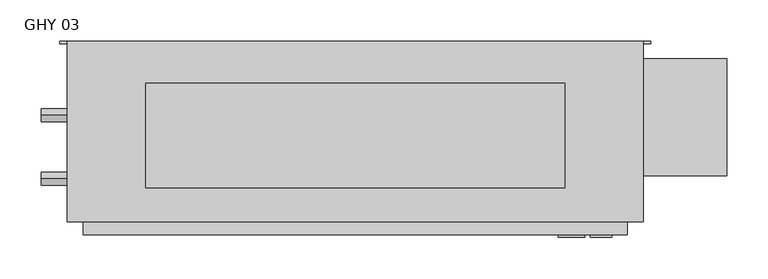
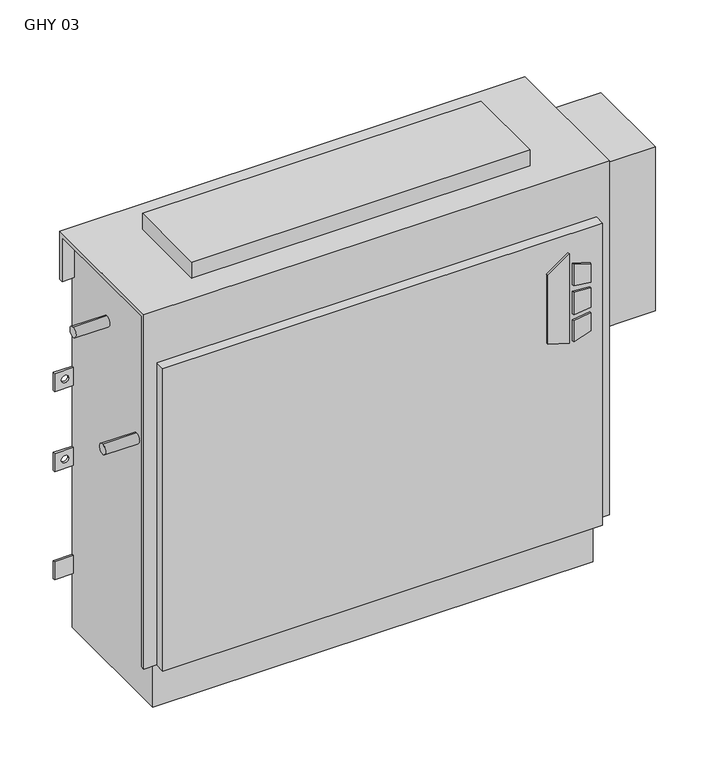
"""IFC4 building model written with IfcOpenShell, lengths in millimetres: proxy geometry, Vertical_Fan_Coil_Unit_-_GHY_-_IEC_-_2-Pipe_TS-FR_LH_2022 : GHY 03."""

import ifcopenshell
import ifcopenshell.guid

model = None  # the IFC model being written
_history = None  # IfcOwnerHistory: only IFC2X3 demands one
_inside = {}  # id of a spatial element -> (the spatial element, [elements in it])
_under = {}  # id of a project, library or spatial element -> (it, [spatial elements below it])
_declared = {}  # id of a project -> (the project, [libraries it declares])
_typed = {}  # id of a type object -> (the type object, [elements of that type])
_made_of = {}  # id of a material, layer set ... -> (it, [elements and type objects made of it])


def new_model(schema):
    """Start an empty IFC model of exactly this schema.

    Asked for "IFC4X3", IfcOpenShell would pick the latest addendum, in which some entities
    have other attributes; the version numbers below select the first issue.
    IFC2X3 requires an IfcOwnerHistory on every rooted entity: one is made here for all.
    """
    global model, _history
    if schema == "IFC4X3":
        model = ifcopenshell.file(schema_version=(4, 3, 0, 0))
    else:
        model = ifcopenshell.file(schema=schema)
    _inside.clear()
    _under.clear()
    _declared.clear()
    _typed.clear()
    _made_of.clear()
    _history = None
    if model.schema == "IFC2X3":
        org = make("IfcOrganization", Name="unknown")
        user = make(
            "IfcPersonAndOrganization",
            ThePerson=make("IfcPerson", FamilyName="unknown"),
            TheOrganization=org,
        )
        app = make(
            "IfcApplication",
            ApplicationDeveloper=org,
            Version="unknown",
            ApplicationFullName="unknown",
            ApplicationIdentifier="unknown",
        )
        _history = make(
            "IfcOwnerHistory",
            OwningUser=user,
            OwningApplication=app,
            ChangeAction="ADDED",
            CreationDate=0,
        )
    return model


def make(cls, **values):
    """One entity of the class cls with the attributes given. An attribute that is None is left unset."""
    return model.create_entity(
        cls, **{name: value for name, value in values.items() if value is not None}
    )


def rooted(cls, **values):
    """An entity with a GlobalId (a new one), such as an element, a storey or a relation."""
    return make(cls, GlobalId=ifcopenshell.guid.new(), OwnerHistory=_history, **values)


def si_unit(unit_type, name, prefix=None):
    """IfcSIUnit, for example si_unit("LENGTHUNIT", "METRE", prefix="MILLI")."""
    return make("IfcSIUnit", UnitType=unit_type, Prefix=prefix, Name=name)


def assignment(units):
    """IfcUnitAssignment: the units of a project."""
    return None if units is None else make("IfcUnitAssignment", Units=units)


def point(xyz):
    """IfcCartesianPoint."""
    return None if xyz is None else make("IfcCartesianPoint", Coordinates=xyz)


def direction(xyz):
    """IfcDirection."""
    return None if xyz is None else make("IfcDirection", DirectionRatios=xyz)


def frame(location, z_axis=None, x_axis=None):
    """IfcAxis2Placement3D, a coordinate frame: its origin and axes. An axis left out is left unset."""
    return make(
        "IfcAxis2Placement3D",
        Location=point(location),
        Axis=direction(z_axis),
        RefDirection=direction(x_axis),
    )


def frame_2d(location, x_axis=None):
    """IfcAxis2Placement2D, a coordinate frame in the plane: its origin and x axis."""
    return make(
        "IfcAxis2Placement2D", Location=point(location), RefDirection=direction(x_axis)
    )


def origin():
    """The frame at (0, 0, 0) with its axes left unset."""
    return frame((0.0, 0.0, 0.0))


def place(relative_to, where):
    """IfcLocalPlacement: puts the frame where relative to a parent placement (None: the world)."""
    return make(
        "IfcLocalPlacement", PlacementRelTo=relative_to, RelativePlacement=where
    )


def context(
    kind, dimensions, precision=None, world=None, true_north=None, identifier=None
):
    """IfcGeometricRepresentationContext, for example the 3D "Model" context."""
    return make(
        "IfcGeometricRepresentationContext",
        ContextIdentifier=identifier,
        ContextType=kind,
        CoordinateSpaceDimension=dimensions,
        Precision=precision,
        WorldCoordinateSystem=world,
        TrueNorth=true_north,
    )


def project(units=None, contexts=None):
    """IfcProject with its units and contexts."""
    return rooted(
        "IfcProject",
        Name="project",
        RepresentationContexts=contexts,
        UnitsInContext=assignment(units),
    )


def spatial(cls, under=None, at=None, **own):
    """A site, building, storey or space (cls), placed at a placement, below another one or the project."""
    s = rooted(cls, ObjectPlacement=at, **own)
    if under is not None:
        _under.setdefault(under.id(), (under, []))[1].append(s)
    return s


def polyline(points):
    """IfcPolyline through the points."""
    return make("IfcPolyline", Points=[point(p) for p in points])


def circle_curve(where, radius):
    """IfcCircle in the frame where."""
    return make("IfcCircle", Position=where, Radius=radius)


def trimmed(basis, trim1, trim2, sense, master):
    """IfcTrimmedCurve: the piece of a basis curve between two trims."""
    return make(
        "IfcTrimmedCurve",
        BasisCurve=basis,
        Trim1=trim1,
        Trim2=trim2,
        SenseAgreement=sense,
        MasterRepresentation=master,
    )


def segment(curve, same_sense, transition):
    """IfcCompositeCurveSegment."""
    return make(
        "IfcCompositeCurveSegment",
        Transition=transition,
        SameSense=same_sense,
        ParentCurve=curve,
    )


def composite_curve(segments, self_intersect=None):
    """IfcCompositeCurve: segments joined end to end."""
    return make("IfcCompositeCurve", Segments=segments, SelfIntersect=self_intersect)


def outline(outer, holes=None, kind="AREA"):
    """IfcArbitraryClosedProfileDef: a profile drawn as a closed curve; with holes, ...WithVoids."""
    if holes is None:
        return make("IfcArbitraryClosedProfileDef", ProfileType=kind, OuterCurve=outer)
    return make(
        "IfcArbitraryProfileDefWithVoids",
        ProfileType=kind,
        OuterCurve=outer,
        InnerCurves=holes,
    )


def extrude(swept, where, along, depth):
    """IfcExtrudedAreaSolid: the profile swept, set in the frame where, extruded along a direction by depth."""
    return make(
        "IfcExtrudedAreaSolid",
        SweptArea=swept,
        Position=where,
        ExtrudedDirection=direction(along),
        Depth=depth,
    )


def shape(context_of_items, identifier, shape_type, items):
    """IfcShapeRepresentation: the items that make up one representation, for example the "Body"."""
    return make(
        "IfcShapeRepresentation",
        ContextOfItems=context_of_items,
        RepresentationIdentifier=identifier,
        RepresentationType=shape_type,
        Items=items,
    )


def source(mapping_origin, context_of_items, identifier, shape_type, items):
    """IfcRepresentationMap: a shape defined once, which mapped items show again and again."""
    return make(
        "IfcRepresentationMap",
        MappingOrigin=mapping_origin,
        MappedRepresentation=shape(context_of_items, identifier, shape_type, items),
    )


def transform(
    local_origin,
    x_axis=None,
    y_axis=None,
    z_axis=None,
    scale=None,
    scale2=None,
    scale3=None,
    uniform=True,
):
    """IfcCartesianTransformationOperator3D, or its non-uniform kind. x_axis, y_axis, z_axis: its Axis1, 2, 3."""
    if uniform:
        return make(
            "IfcCartesianTransformationOperator3D",
            Axis1=direction(x_axis),
            Axis2=direction(y_axis),
            LocalOrigin=point(local_origin),
            Scale=scale,
            Axis3=direction(z_axis),
        )
    return make(
        "IfcCartesianTransformationOperator3DnonUniform",
        Axis1=direction(x_axis),
        Axis2=direction(y_axis),
        LocalOrigin=point(local_origin),
        Scale=scale,
        Axis3=direction(z_axis),
        Scale2=scale2,
        Scale3=scale3,
    )


def mapped(mapping_source, mapping_target):
    """IfcMappedItem: shows the shape of a source again, moved by a transform."""
    return make(
        "IfcMappedItem", MappingSource=mapping_source, MappingTarget=mapping_target
    )


def made_of(thing, what):
    """Note that an element or type object is made of a material, layer set ...; save() writes the relation."""
    if what is not None:
        _made_of.setdefault(what.id(), (what, []))[1].append(thing)
    return thing


def element(
    cls,
    number,
    at=None,
    inside=None,
    cuts=None,
    type_object=None,
    material=None,
    context=None,
    identifier="Body",
    shape_type=None,
    held_by="IfcProductDefinitionShape",
    body=None,
    shapes=None,
    **own,
):
    """One element of the class cls, such as IfcWall. Its Tag is "e" and its number.

    at: its placement. inside: the storey or other place that contains it. cuts: it is an
    opening in that element (IfcRelVoidsElement). A single representation is given by context,
    identifier, shape_type and body (its items); several are given by shapes. held_by: the class
    of the entity that holds the representations. save() writes the other relations.
    """
    e = rooted(cls, Tag="e%d" % number, ObjectPlacement=at, **own)
    if body is not None:
        shapes = [shape(context, identifier, shape_type, body)]
    if shapes is not None:
        e.Representation = make(held_by, Representations=shapes)
    if inside is not None:
        _inside.setdefault(inside.id(), (inside, []))[1].append(e)
    if cuts is not None:
        rooted(
            "IfcRelVoidsElement", RelatingBuildingElement=cuts, RelatedOpeningElement=e
        )
    if type_object is not None:
        _typed.setdefault(type_object.id(), (type_object, []))[1].append(e)
    return made_of(e, material)


def aggregate(whole, parts):
    """IfcRelAggregates: a whole, such as a stair, and the parts it consists of."""
    return rooted("IfcRelAggregates", RelatingObject=whole, RelatedObjects=parts)


def save(model, path):
    """Write the relations noted so far, then the file.

    IfcRelAggregates (storeys below a building ...), IfcRelContainedInSpatialStructure (elements
    in a storey), IfcRelDefinesByType, IfcRelAssociatesMaterial and IfcRelDeclares: one each for
    every whole, place, type object, material and project.
    """
    for whole, parts in _under.values():
        aggregate(whole, parts)
    for where, things in _inside.values():
        rooted(
            "IfcRelContainedInSpatialStructure",
            RelatedElements=things,
            RelatingStructure=where,
        )
    for kind, things in _typed.values():
        rooted("IfcRelDefinesByType", RelatedObjects=things, RelatingType=kind)
    for what, things in _made_of.values():
        rooted("IfcRelAssociatesMaterial", RelatedObjects=things, RelatingMaterial=what)
    for by, libraries in _declared.values():
        rooted("IfcRelDeclares", RelatingContext=by, RelatedDefinitions=libraries)
    model.write(path)


def plane_surface(at):
    """IfcPlane: the flat surface through the origin of the frame at, square to its z axis."""
    return make("IfcPlane", Position=at)


def revolved_surface(curve, axis_point, axis_direction):
    """IfcSurfaceOfRevolution: the curve turned about the line through axis_point along axis_direction."""
    return make(
        "IfcSurfaceOfRevolution",
        SweptCurve=make("IfcArbitraryOpenProfileDef", ProfileType="CURVE", Curve=curve),
        AxisPosition=make("IfcAxis1Placement", Location=point(axis_point), Axis=direction(axis_direction)),
    )


def advanced_brep(points, edges, surfaces, faces):
    """IfcAdvancedBrep: a solid bounded by faces that lie on surfaces and meet in shared edges.

    An edge is (start, end): straight between two places in points (the first is 0);
    or (start, end, curve); or (start, end, curve, False) where it runs against its curve.
    A face is (place in surfaces, loops), or (place, loops, False) where it looks against
    its surface's normal. A loop lists edges by number (the first is 1), with a minus sign
    where the edge is run from its end to its start. The first loop is the outer one.
    """
    corners = [point(p) for p in points]
    vertices = [make("IfcVertexPoint", VertexGeometry=c) for c in corners]
    made = []
    for start, end, *more in edges:
        made.append(
            make(
                "IfcEdgeCurve",
                EdgeStart=vertices[start],
                EdgeEnd=vertices[end],
                EdgeGeometry=more[0] if more else make("IfcPolyline", Points=[corners[start], corners[end]]),
                SameSense=more[1] if len(more) > 1 else True,
            )
        )
    hull = []
    for where, loops, *sense in faces:
        bounds = []
        for j, loop in enumerate(loops):
            ring = [make("IfcOrientedEdge", EdgeElement=made[abs(k) - 1], Orientation=k > 0) for k in loop]
            bounds.append(
                make(
                    "IfcFaceOuterBound" if j == 0 else "IfcFaceBound",
                    Bound=make("IfcEdgeLoop", EdgeList=ring),
                    Orientation=True,
                )
            )
        hull.append(make("IfcAdvancedFace", Bounds=bounds, FaceSurface=surfaces[where], SameSense=sense[0] if sense else True))
    return make("IfcAdvancedBrep", Outer=make("IfcClosedShell", CfsFaces=hull))


def ghy_03_1ddc801b(model_context):
    return source(origin(), model_context, "Body", "SolidModel", [
        extrude(outline(polyline([(391.6086829, 398.5368862), (381.6606126, 430.7102728), (523.831537, 430.7102728), (500.8095309, 398.5368862), (391.6086829, 398.5368862)])), frame((0.0, 6.35, 0.0), z_axis=(0.0, 1.0, 0.0), x_axis=(0.0, 0.0, 1.0)), (0.0, 0.0, 1.0), 3.175),
        extrude(outline(polyline([(470.6079683, 437.4686058), (467.4055757, 463.55), (496.6344168, 463.55), (504.6988318, 437.4686058), (470.6079683, 437.4686058)])), frame((0.0, 6.35, 0.0), z_axis=(0.0, 1.0, 0.0), x_axis=(0.0, 0.0, 1.0)), (0.0, 0.0, 1.0), 3.175),
        extrude(outline(polyline([(418.7444414, 463.55), (415.0789404, 437.4686058), (381.6606126, 437.4686058), (390.2948498, 463.55), (418.7444414, 463.55)])), frame((0.0, 6.35, 0.0), z_axis=(0.0, 1.0, 0.0), x_axis=(0.0, 0.0, 1.0)), (0.0, 0.0, 1.0), 3.175),
        extrude(outline(polyline([(458.0596028, 463.55), (460.3414292, 437.4686058), (424.4038806, 437.4686058), (427.1451456, 463.55), (458.0596028, 463.55)])), frame((0.0, 6.35, 0.0), z_axis=(0.0, 1.0, 0.0), x_axis=(0.0, 0.0, 1.0)), (0.0, 0.0, 1.0), 3.175),
        extrude(outline(polyline([(406.4, 193.675), (406.4, 66.675), (-101.6, 66.675), (-101.6, 193.675), (406.4, 193.675)])), frame((0.0, 0.0, 635.0), z_axis=(0.0, 0.0, 1.0), x_axis=(1.0, 0.0, 0.0)), (0.0, 0.0, 1.0), 25.4),
        extrude(outline(composite_curve([segment(trimmed(circle_curve(frame_2d((77.597, 401.574)), 7.9375), [point((77.597, 409.5115))], [point((77.597, 393.6365))], False, "CARTESIAN"), True, "CONTINUOUS"), segment(trimmed(circle_curve(frame_2d((77.597, 401.574)), 7.9375), [point((77.597, 393.6365))], [point((77.597, 409.5115))], False, "CARTESIAN"), True, "CONTINUOUS")], self_intersect=False)), frame((-228.6, 0.0, 0.0), z_axis=(1.0, 0.0, 0.0), x_axis=(0.0, 1.0, 0.0)), (0.0, 0.0, 1.0), 50.8),
        extrude(outline(composite_curve([segment(trimmed(circle_curve(frame_2d((154.559, 540.512)), 7.9375), [point((154.559, 548.4495))], [point((154.559, 532.5745))], False, "CARTESIAN"), True, "CONTINUOUS"), segment(trimmed(circle_curve(frame_2d((154.559, 540.512)), 7.9375), [point((154.559, 532.5745))], [point((154.559, 548.4495))], False, "CARTESIAN"), True, "CONTINUOUS")], self_intersect=False)), frame((-228.6, 0.0, 0.0), z_axis=(1.0, 0.0, 0.0), x_axis=(0.0, 1.0, 0.0)), (0.0, 0.0, 1.0), 50.8),
        extrude(outline(polyline([(603.25, 223.266), (603.25, 81.534), (482.6, 81.534), (482.6, 223.266), (603.25, 223.266)])), frame((0.0, 0.0, 327.025), z_axis=(0.0, 0.0, 1.0), x_axis=(1.0, 0.0, 0.0)), (0.0, 0.0, 1.0), 260.35),
        advanced_brep(
        [(501.65, 244.475, 635.0), (-196.85, 244.475, 635.0), (-196.85, 25.4, 635.0), (501.65, 25.4, 635.0), (-177.8, 244.475, 0.0), (482.6, 244.475, 0.0), (482.6, 34.925, 0.0), (-177.8, 34.925, 0.0), (501.65, 244.475, 558.8), (482.6, 244.475, 558.8), (482.6, 244.475, 414.3375), (511.175, 244.475, 414.3375), (511.175, 244.475, 385.7625), (482.6, 244.475, 385.7625), (482.6, 244.475, 287.3375), (511.175, 244.475, 287.3375), (511.175, 244.475, 258.7625), (482.6, 244.475, 258.7625), (482.6, 244.475, 141.2875), (511.175, 244.475, 141.2875), (511.175, 244.475, 112.7125), (482.6, 244.475, 112.7125), (-177.8, 244.475, 87.3125), (-206.375, 244.475, 87.3125), (-206.375, 244.475, 115.8875), (-177.8, 244.475, 115.8875), (-177.8, 244.475, 258.7625), (-206.375, 244.475, 258.7625), (-206.375, 244.475, 287.3375), (-177.8, 244.475, 287.3375), (-177.8, 244.475, 385.7625), (-206.375, 244.475, 385.7625), (-206.375, 244.475, 414.3375), (-177.8, 244.475, 414.3375), (-177.8, 244.475, 558.8), (-196.85, 244.475, 558.8), (500.8626, 244.475, 127.0), (489.7374, 244.475, 127.0), (500.8626, 244.475, 273.05), (489.7374, 244.475, 273.05), (-184.9374, 244.475, 273.05), (-196.0626, 244.475, 273.05), (500.8626, 244.475, 400.05), (489.7374, 244.475, 400.05), (-184.9374, 244.475, 400.05), (-196.0626, 244.475, 400.05), (-196.85, 238.125, 558.8), (-196.85, 238.125, 628.65), (-196.85, 31.75, 628.65), (-196.85, 31.75, 73.025), (-196.85, 25.4, 73.025), (482.6, 9.525, 552.45), (-177.8, 9.525, 552.45), (-177.8, 9.525, 73.025), (482.6, 9.525, 73.025), (501.65, 25.4, 73.025), (501.65, 31.75, 73.025), (501.65, 31.75, 628.65), (501.65, 238.125, 628.65), (501.65, 238.125, 558.8), (-177.8, 25.4, 73.025), (-177.8, 25.4, 552.45), (482.6, 25.4, 552.45), (482.6, 25.4, 73.025), (-177.8, 31.75, 73.025), (-177.8, 34.925, 73.025), (482.6, 34.925, 73.025), (482.6, 31.75, 73.025), (482.6, 241.3, 112.7125), (482.6, 241.3, 141.2875), (482.6, 241.3, 258.7625), (482.6, 241.3, 287.3375), (482.6, 241.3, 385.7625), (482.6, 241.3, 414.3375), (482.6, 238.125, 558.8), (482.6, 238.125, 628.65), (482.6, 31.75, 628.65), (-177.8, 31.75, 628.65), (-177.8, 238.125, 628.65), (-177.8, 238.125, 558.8), (-177.8, 241.3, 414.3375), (-177.8, 241.3, 385.7625), (-177.8, 241.3, 287.3375), (-177.8, 241.3, 258.7625), (-177.8, 241.3, 115.8875), (-177.8, 241.3, 87.3125), (511.175, 241.3, 112.7125), (511.175, 241.3, 141.2875), (489.7374, 241.3, 127.0), (500.8626, 241.3, 127.0), (511.175, 241.3, 258.7625), (511.175, 241.3, 287.3375), (489.7374, 241.3, 273.05), (500.8626, 241.3, 273.05), (511.175, 241.3, 385.7625), (511.175, 241.3, 414.3375), (489.7374, 241.3, 400.05), (500.8626, 241.3, 400.05), (-206.375, 241.3, 115.8875), (-206.375, 241.3, 87.3125), (-206.375, 241.3, 287.3375), (-206.375, 241.3, 258.7625), (-196.0626, 241.3, 273.05), (-184.9374, 241.3, 273.05), (-206.375, 241.3, 414.3375), (-206.375, 241.3, 385.7625), (-196.0626, 241.3, 400.05), (-184.9374, 241.3, 400.05)],
        [
            (0, 1),
            (1, 2),
            (2, 3),
            (3, 0),
            (4, 5),
            (5, 6),
            (6, 7),
            (7, 4),
            (0, 8),
            (8, 9),
            (9, 10),
            (10, 11),
            (11, 12),
            (12, 13),
            (13, 14),
            (14, 15),
            (15, 16),
            (16, 17),
            (17, 18),
            (18, 19),
            (19, 20),
            (20, 21),
            (21, 5),
            (4, 22),
            (22, 23),
            (23, 24),
            (24, 25),
            (25, 26),
            (26, 27),
            (27, 28),
            (28, 29),
            (29, 30),
            (30, 31),
            (31, 32),
            (32, 33),
            (33, 34),
            (34, 35),
            (35, 1),
            (36, 37, circle_curve(frame((495.3, 244.475, 127.0), z_axis=(0.0, -1.0, 0.0), x_axis=(-1.0, 0.0, 0.0)), 5.5626)),
            (37, 36, circle_curve(frame((495.3, 244.475, 127.0), z_axis=(0.0, -1.0, 0.0), x_axis=(-1.0, 0.0, 0.0)), 5.5626)),
            (38, 39, circle_curve(frame((495.3, 244.475, 273.05), z_axis=(0.0, -1.0, 0.0), x_axis=(-1.0, 0.0, 0.0)), 5.5626)),
            (39, 38, circle_curve(frame((495.3, 244.475, 273.05), z_axis=(0.0, -1.0, 0.0), x_axis=(-1.0, 0.0, 0.0)), 5.5626)),
            (40, 41, circle_curve(frame((-190.5, 244.475, 273.05), z_axis=(0.0, -1.0, 0.0), x_axis=(-1.0, 0.0, 0.0)), 5.5626)),
            (41, 40, circle_curve(frame((-190.5, 244.475, 273.05), z_axis=(0.0, -1.0, 0.0), x_axis=(-1.0, 0.0, 0.0)), 5.5626)),
            (42, 43, circle_curve(frame((495.3, 244.475, 400.05), z_axis=(0.0, -1.0, 0.0), x_axis=(-1.0, 0.0, 0.0)), 5.5626)),
            (43, 42, circle_curve(frame((495.3, 244.475, 400.05), z_axis=(0.0, -1.0, 0.0), x_axis=(-1.0, 0.0, 0.0)), 5.5626)),
            (44, 45, circle_curve(frame((-190.5, 244.475, 400.05), z_axis=(0.0, -1.0, 0.0), x_axis=(-1.0, 0.0, 0.0)), 5.5626)),
            (45, 44, circle_curve(frame((-190.5, 244.475, 400.05), z_axis=(0.0, -1.0, 0.0), x_axis=(-1.0, 0.0, 0.0)), 5.5626)),
            (35, 46),
            (46, 47),
            (47, 48),
            (48, 49),
            (49, 50),
            (50, 2),
            (51, 52),
            (52, 53),
            (53, 54),
            (54, 51),
            (3, 55),
            (55, 56),
            (56, 57),
            (57, 58),
            (58, 59),
            (59, 8),
            (50, 60),
            (60, 61),
            (61, 62),
            (62, 63),
            (63, 55),
            (51, 62),
            (61, 52),
            (53, 60),
            (49, 64),
            (64, 65),
            (65, 66),
            (66, 67),
            (67, 56),
            (63, 54),
            (6, 66),
            (65, 7),
            (21, 68),
            (68, 69),
            (69, 18),
            (17, 70),
            (70, 71),
            (71, 14),
            (13, 72),
            (72, 73),
            (73, 10),
            (9, 74),
            (74, 75),
            (75, 76),
            (76, 67),
            (64, 77),
            (77, 78),
            (78, 79),
            (79, 34),
            (33, 80),
            (80, 81),
            (81, 30),
            (29, 82),
            (82, 83),
            (83, 26),
            (25, 84),
            (84, 85),
            (85, 22),
            (74, 59),
            (58, 75),
            (76, 57),
            (48, 77),
            (79, 46),
            (78, 47),
            (68, 86),
            (86, 87),
            (87, 69),
            (88, 89, circle_curve(frame((495.3, 241.3, 127.0), z_axis=(0.0, 1.0, 0.0), x_axis=(-1.0, 0.0, 0.0)), 5.5626)),
            (89, 88, circle_curve(frame((495.3, 241.3, 127.0), z_axis=(0.0, 1.0, 0.0), x_axis=(-1.0, 0.0, 0.0)), 5.5626)),
            (90, 91),
            (91, 71),
            (70, 90),
            (92, 93, circle_curve(frame((495.3, 241.3, 273.05), z_axis=(0.0, 1.0, 0.0), x_axis=(-1.0, 0.0, 0.0)), 5.5626)),
            (93, 92, circle_curve(frame((495.3, 241.3, 273.05), z_axis=(0.0, 1.0, 0.0), x_axis=(-1.0, 0.0, 0.0)), 5.5626)),
            (94, 95),
            (95, 73),
            (72, 94),
            (96, 97, circle_curve(frame((495.3, 241.3, 400.05), z_axis=(0.0, 1.0, 0.0), x_axis=(-1.0, 0.0, 0.0)), 5.5626)),
            (97, 96, circle_curve(frame((495.3, 241.3, 400.05), z_axis=(0.0, 1.0, 0.0), x_axis=(-1.0, 0.0, 0.0)), 5.5626)),
            (98, 99),
            (99, 85),
            (84, 98),
            (82, 100),
            (100, 101),
            (101, 83),
            (102, 103, circle_curve(frame((-190.5, 241.3, 273.05), z_axis=(0.0, 1.0, 0.0), x_axis=(-1.0, 0.0, 0.0)), 5.5626)),
            (103, 102, circle_curve(frame((-190.5, 241.3, 273.05), z_axis=(0.0, 1.0, 0.0), x_axis=(-1.0, 0.0, 0.0)), 5.5626)),
            (104, 105),
            (105, 81),
            (80, 104),
            (106, 107, circle_curve(frame((-190.5, 241.3, 400.05), z_axis=(0.0, 1.0, 0.0), x_axis=(-1.0, 0.0, 0.0)), 5.5626)),
            (107, 106, circle_curve(frame((-190.5, 241.3, 400.05), z_axis=(0.0, 1.0, 0.0), x_axis=(-1.0, 0.0, 0.0)), 5.5626)),
            (87, 19),
            (86, 20),
            (16, 90),
            (91, 15),
            (12, 94),
            (95, 11),
            (24, 98),
            (99, 23),
            (101, 27),
            (100, 28),
            (32, 104),
            (105, 31),
            (88, 37),
            (36, 89),
            (92, 39),
            (38, 93),
            (102, 41),
            (40, 103),
            (96, 43),
            (42, 97),
            (106, 45),
            (44, 107),
        ],
        [
            plane_surface(frame((-196.85, 244.475, 635.0), z_axis=(0.0, 0.0, 1.0), x_axis=(-1.0, 0.0, 0.0))),
            plane_surface(frame((-196.85, 244.475, 0.0), z_axis=(0.0, 0.0, -1.0), x_axis=(1.0, 0.0, 0.0))),
            plane_surface(frame((501.65, 244.475, 635.0), z_axis=(0.0, 1.0, 0.0), x_axis=(0.0, 0.0, -1.0))),
            plane_surface(frame((-196.85, 244.475, 635.0), z_axis=(-1.0, 0.0, 0.0), x_axis=(0.0, 0.0, -1.0))),
            plane_surface(frame((-196.85, 9.525, 635.0), z_axis=(0.0, -1.0, 0.0), x_axis=(0.0, 0.0, -1.0))),
            plane_surface(frame((501.65, 9.525, 635.0), z_axis=(1.0, 0.0, 0.0), x_axis=(0.0, 0.0, -1.0))),
            plane_surface(frame((-247.65, 25.4, 635.0), z_axis=(0.0, -1.0, 0.0), x_axis=(1.0, 0.0, 0.0))),
            plane_surface(frame((-247.65, 25.4, 552.45), z_axis=(0.0, 0.0, 1.0), x_axis=(1.0, 0.0, 0.0))),
            plane_surface(frame((-196.85, 9.525, 73.025), z_axis=(0.0, 0.0, -1.0), x_axis=(1.0, 0.0, 0.0))),
            plane_surface(frame((-196.85, 34.925, 73.025), z_axis=(0.0, -1.0, 0.0), x_axis=(1.0, 0.0, 0.0))),
            plane_surface(frame((482.6, 25.4, 73.025), z_axis=(1.0, 0.0, 0.0), x_axis=(0.0, -1.0, 0.0))),
            plane_surface(frame((-177.8, 25.4, 552.45), z_axis=(-1.0, 0.0, 0.0), x_axis=(0.0, -1.0, 0.0))),
            plane_surface(frame((482.6, 244.475, 0.0), z_axis=(1.0, 0.0, 0.0), x_axis=(0.0, -1.0, 0.0))),
            plane_surface(frame((-177.8, 244.475, 73.025), z_axis=(-1.0, 0.0, 0.0), x_axis=(0.0, -1.0, 0.0))),
            plane_surface(frame((482.6, 238.125, 628.65), z_axis=(0.0, -1.0, 0.0), x_axis=(1.0, 0.0, 0.0))),
            plane_surface(frame((482.6, 238.125, 558.8), z_axis=(0.0, 0.0, -1.0), x_axis=(1.0, 0.0, 0.0))),
            plane_surface(frame((482.6, 31.75, 73.025), z_axis=(0.0, 1.0, 0.0), x_axis=(1.0, 0.0, 0.0))),
            plane_surface(frame((482.6, 31.75, 628.65), z_axis=(0.0, 0.0, -1.0), x_axis=(1.0, 0.0, 0.0))),
            plane_surface(frame((-177.8, 31.75, 628.65), z_axis=(0.0, 1.0, 0.0), x_axis=(-1.0, 0.0, 0.0))),
            plane_surface(frame((-177.8, 244.475, 558.8), z_axis=(0.0, 0.0, -1.0), x_axis=(-1.0, 0.0, 0.0))),
            plane_surface(frame((-177.8, 238.125, 558.8), z_axis=(0.0, -1.0, 0.0), x_axis=(-1.0, 0.0, 0.0))),
            plane_surface(frame((-177.8, 238.125, 628.65), z_axis=(0.0, 0.0, -1.0), x_axis=(-1.0, 0.0, 0.0))),
            plane_surface(frame((511.175, 241.3, 141.2875), z_axis=(0.0, -1.0, 0.0), x_axis=(-1.0, 0.0, 0.0))),
            plane_surface(frame((482.6, 244.475, 141.2875), z_axis=(0.0, 0.0, 1.0), x_axis=(0.0, -1.0, 0.0))),
            plane_surface(frame((511.175, 244.475, 141.2875), z_axis=(1.0, 0.0, 0.0), x_axis=(0.0, -1.0, 0.0))),
            plane_surface(frame((511.175, 244.475, 112.7125), z_axis=(0.0, 0.0, -1.0), x_axis=(0.0, -1.0, 0.0))),
            plane_surface(frame((511.175, 244.475, 258.7625), z_axis=(0.0, 0.0, -1.0), x_axis=(0.0, -1.0, 0.0))),
            plane_surface(frame((482.6, 244.475, 287.3375), z_axis=(0.0, 0.0, 1.0), x_axis=(0.0, -1.0, 0.0))),
            plane_surface(frame((511.175, 244.475, 287.3375), z_axis=(1.0, 0.0, 0.0), x_axis=(0.0, -1.0, 0.0))),
            plane_surface(frame((511.175, 244.475, 385.7625), z_axis=(0.0, 0.0, -1.0), x_axis=(0.0, -1.0, 0.0))),
            plane_surface(frame((482.6, 244.475, 414.3375), z_axis=(0.0, 0.0, 1.0), x_axis=(0.0, -1.0, 0.0))),
            plane_surface(frame((511.175, 244.475, 414.3375), z_axis=(1.0, 0.0, 0.0), x_axis=(0.0, -1.0, 0.0))),
            plane_surface(frame((-206.375, 244.475, 115.8875), z_axis=(0.0, 0.0, 1.0), x_axis=(0.0, -1.0, 0.0))),
            plane_surface(frame((-177.8, 244.475, 87.3125), z_axis=(0.0, 0.0, -1.0), x_axis=(0.0, -1.0, 0.0))),
            plane_surface(frame((-206.375, 244.475, 87.3125), z_axis=(-1.0, 0.0, 0.0), x_axis=(0.0, -1.0, 0.0))),
            plane_surface(frame((-177.8, 244.475, 258.7625), z_axis=(0.0, 0.0, -1.0), x_axis=(0.0, -1.0, 0.0))),
            plane_surface(frame((-206.375, 244.475, 258.7625), z_axis=(-1.0, 0.0, 0.0), x_axis=(0.0, -1.0, 0.0))),
            plane_surface(frame((-206.375, 244.475, 287.3375), z_axis=(0.0, 0.0, 1.0), x_axis=(0.0, -1.0, 0.0))),
            plane_surface(frame((-206.375, 244.475, 414.3375), z_axis=(0.0, 0.0, 1.0), x_axis=(0.0, -1.0, 0.0))),
            plane_surface(frame((-177.8, 244.475, 385.7625), z_axis=(0.0, 0.0, -1.0), x_axis=(0.0, -1.0, 0.0))),
            plane_surface(frame((-206.375, 244.475, 385.7625), z_axis=(-1.0, 0.0, 0.0), x_axis=(0.0, -1.0, 0.0))),
            revolved_surface(polyline([(489.73740000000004, 241.3, 127.0), (489.73740000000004, 244.475, 127.0)]), (495.3, 244.475, 127.0), (0.0, -1.0, 0.0)),
            revolved_surface(polyline([(489.73740000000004, 241.3, 273.05), (489.73740000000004, 244.475, 273.05)]), (495.3, 244.475, 273.05), (0.0, -1.0, 0.0)),
            revolved_surface(polyline([(-196.0626, 241.3, 273.05), (-196.0626, 244.475, 273.05)]), (-190.5, 244.475, 273.05), (0.0, -1.0, 0.0)),
            revolved_surface(polyline([(489.73740000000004, 241.3, 400.05), (489.73740000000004, 244.475, 400.05)]), (495.3, 244.475, 400.05), (0.0, -1.0, 0.0)),
            revolved_surface(polyline([(-196.0626, 241.3, 400.05), (-196.0626, 244.475, 400.05)]), (-190.5, 244.475, 400.05), (0.0, -1.0, 0.0)),
        ],
        [
            (0, [[1, 2, 3, 4]]),
            (1, [[5, 6, 7, 8]]),
            (2, [[-1, 9, 10, 11, 12, 13, 14, 15, 16, 17, 18, 19, 20, 21, 22, 23, -5, 24, 25, 26, 27, 28, 29, 30, 31, 32, 33, 34, 35, 36, 37, 38], [39, 40], [41, 42], [43, 44], [45, 46], [47, 48]]),
            (3, [[-2, -38, 49, 50, 51, 52, 53, 54]]),
            (4, [[55, 56, 57, 58]]),
            (5, [[-4, 59, 60, 61, 62, 63, 64, -9]]),
            (6, [[-3, -54, 65, 66, 67, 68, 69, -59]]),
            (7, [[-55, 70, -67, 71]]),
            (8, [[-57, 72, -65, -53, 73, 74, 75, 76, 77, -60, -69, 78]]),
            (9, [[-7, 79, -75, 80]]),
            (10, [[-68, -70, -58, -78]]),
            (11, [[-66, -72, -56, -71]]),
            (12, [[-6, -23, 81, 82, 83, -19, 84, 85, 86, -15, 87, 88, 89, -11, 90, 91, 92, 93, -76, -79]]),
            (13, [[-8, -80, -74, 94, 95, 96, 97, -36, 98, 99, 100, -32, 101, 102, 103, -28, 104, 105, 106, -24]]),
            (14, [[-91, 107, -63, 108]]),
            (15, [[-90, -10, -64, -107]]),
            (16, [[-93, 109, -61, -77]]),
            (17, [[-92, -108, -62, -109]]),
            (18, [[-94, -73, -52, 110]]),
            (19, [[-97, 111, -49, -37]]),
            (20, [[-96, 112, -50, -111]]),
            (21, [[-95, -110, -51, -112]]),
            (22, [[113, 114, 115, -82], [116, 117]]),
            (22, [[118, 119, -85, 120], [121, 122]]),
            (22, [[123, 124, -88, 125], [126, 127]]),
            (22, [[128, 129, -105, 130]]),
            (22, [[131, 132, 133, -102], [134, 135]]),
            (22, [[136, 137, -99, 138], [139, 140]]),
            (23, [[-115, 141, -20, -83]]),
            (24, [[-114, 142, -21, -141]]),
            (25, [[-113, -81, -22, -142]]),
            (26, [[-120, -84, -18, 143]]),
            (27, [[-119, 144, -16, -86]]),
            (28, [[-118, -143, -17, -144]]),
            (29, [[-125, -87, -14, 145]]),
            (30, [[-124, 146, -12, -89]]),
            (31, [[-123, -145, -13, -146]]),
            (32, [[-130, -104, -27, 147]]),
            (33, [[-129, 148, -25, -106]]),
            (34, [[-128, -147, -26, -148]]),
            (35, [[-133, 149, -29, -103]]),
            (36, [[-132, 150, -30, -149]]),
            (37, [[-131, -101, -31, -150]]),
            (38, [[-138, -98, -35, 151]]),
            (39, [[-137, 152, -33, -100]]),
            (40, [[-136, -151, -34, -152]]),
            (41, [[153, -39, 154, -116]]),
            (41, [[-153, -117, -154, -40]]),
            (42, [[155, -41, 156, -121]]),
            (42, [[-155, -122, -156, -42]]),
            (43, [[157, -43, 158, -134]]),
            (43, [[-157, -135, -158, -44]]),
            (44, [[159, -45, 160, -126]]),
            (44, [[-159, -127, -160, -46]]),
            (45, [[161, -47, 162, -139]]),
            (45, [[-161, -140, -162, -48]]),
        ],
    ),
    ])


if __name__ == "__main__":
    model = new_model("IFC4")
    model_context = context("Model", 3, world=origin())
    ifc_project = project(units=[si_unit("LENGTHUNIT", "METRE", prefix="MILLI")], contexts=[model_context])
    site = spatial("IfcSite", under=ifc_project)
    building = spatial("IfcBuilding", under=site)
    placement = place(None, origin())
    ghy_03_shape = ghy_03_1ddc801b(model_context)
    element("IfcBuildingElementProxy", 1, Name="Vertical_Fan_Coil_Unit_-_GHY_-_IEC_-_2-Pipe_TS-FR_LH_2022 : GHY 03", ObjectType="Vertical_Fan_Coil_Unit_-_GHY_-_IEC_-_2-Pipe_TS-FR_LH_2022 : GHY 03", at=placement, inside=building, context=model_context, shape_type="MappedRepresentation", body=[
        mapped(ghy_03_shape, transform((0.0, 0.0, 0.0), x_axis=(1.0, 0.0, 0.0), y_axis=(0.0, 1.0, 0.0), z_axis=(0.0, 0.0, 1.0))),
    ])
    save(model, "model.ifc")
